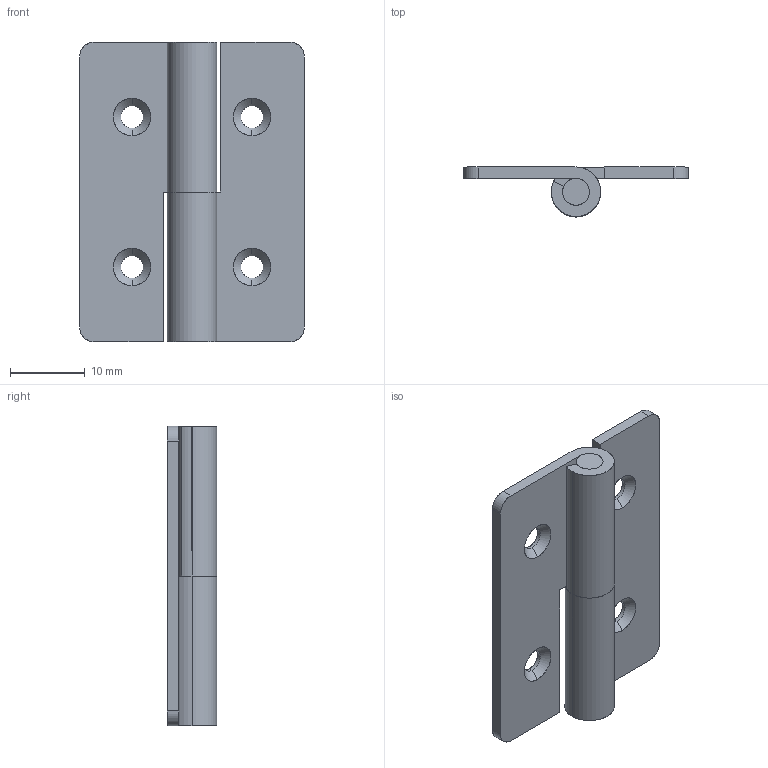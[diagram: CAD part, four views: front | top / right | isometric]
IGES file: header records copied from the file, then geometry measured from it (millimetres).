
Start section: SolidWorks IGES file using analytic representation for surfaces
Bounding box: 30 x 6.6 x 40 mm (x, y, z)
Surface area: 3961.1 mm2 (no closed solid volume)
Topology: 0 solids, 0 shells, 56 faces, 848 edges, 847 vertices
Faces by surface type: revolution 38, bspline 18
